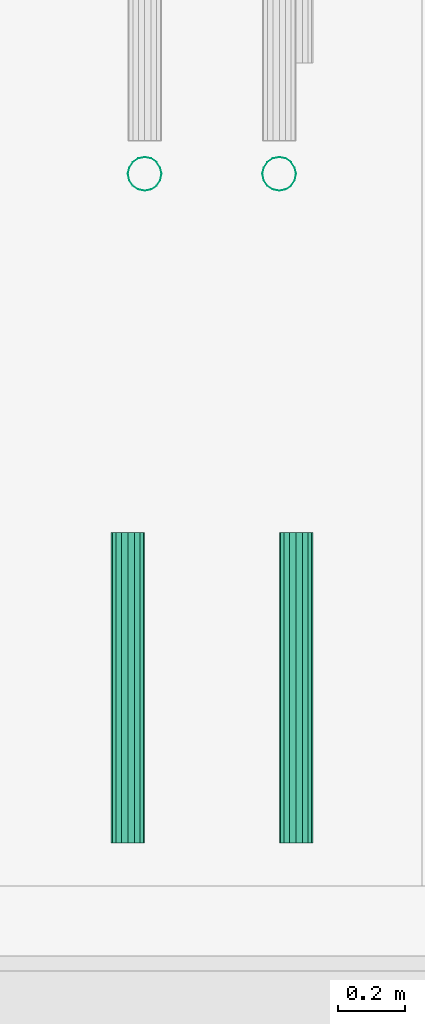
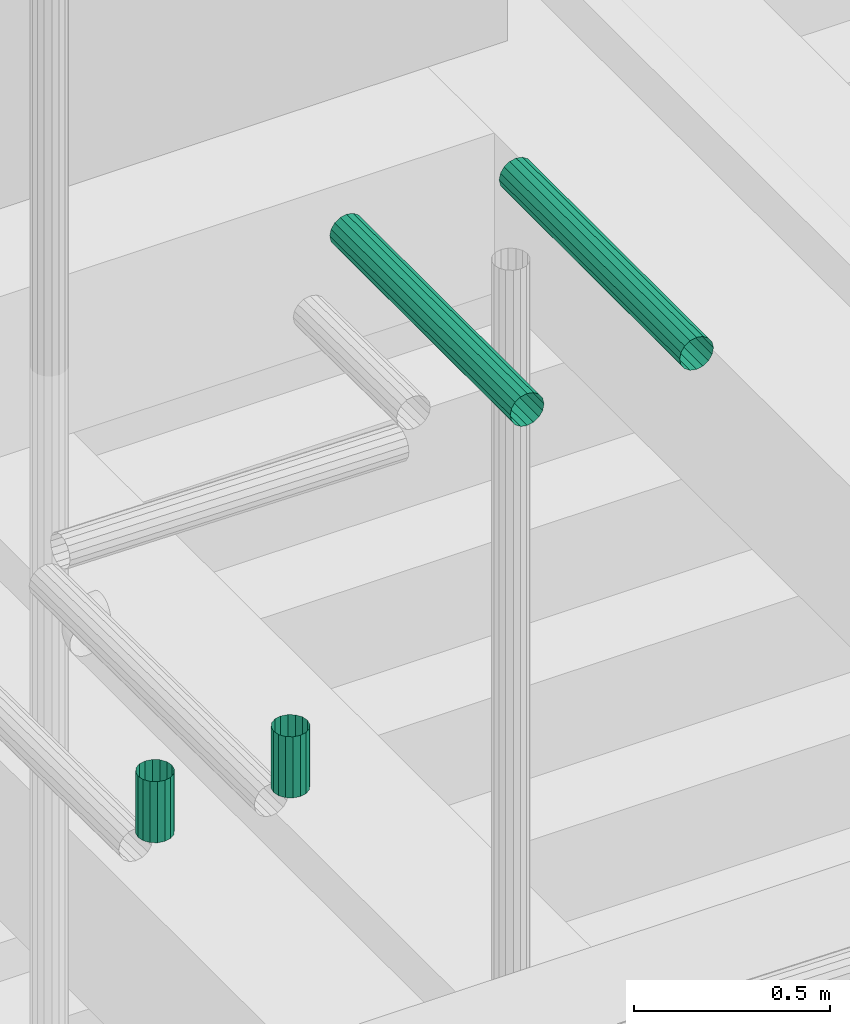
# One storey, part 71 of 106: 4 flow segments.
"""IFC2X3 building model written with IfcOpenShell, lengths in metres."""

from ifc_helpers import new_model, entity, si_unit, converted_unit, derived_unit, money_unit, direction, frame, origin_with_axes, place, context, subcontext, project, spatial, faceted_brep, material, type_object, element, save


model = new_model("IFC2X3")

# Units and contexts
model_context = context("Model", 3, precision=1e-05, world=origin_with_axes(), true_north=direction((0.0, 1.0)))
body_context = subcontext(model_context, "Body", "Model", "MODEL_VIEW", scale=1.0)
ifc_project = project(units=[si_unit("LENGTHUNIT", "METRE"), si_unit("AREAUNIT", "SQUARE_METRE"), si_unit("VOLUMEUNIT", "CUBIC_METRE"), si_unit("ABSORBEDDOSEUNIT", "GRAY"), si_unit("AMOUNTOFSUBSTANCEUNIT", "MOLE"), si_unit("DOSEEQUIVALENTUNIT", "SIEVERT"), si_unit("ELECTRICCAPACITANCEUNIT", "FARAD"), si_unit("ELECTRICCHARGEUNIT", "COULOMB"), si_unit("ELECTRICCONDUCTANCEUNIT", "SIEMENS"), si_unit("ELECTRICCURRENTUNIT", "AMPERE"), si_unit("ELECTRICRESISTANCEUNIT", "OHM"), si_unit("ELECTRICVOLTAGEUNIT", "VOLT"), si_unit("ENERGYUNIT", "JOULE"), si_unit("FORCEUNIT", "NEWTON"), si_unit("FREQUENCYUNIT", "HERTZ"), si_unit("ILLUMINANCEUNIT", "LUX"), si_unit("INDUCTANCEUNIT", "HENRY"), si_unit("LUMINOUSFLUXUNIT", "LUMEN"), si_unit("LUMINOUSINTENSITYUNIT", "CANDELA"), si_unit("MAGNETICFLUXDENSITYUNIT", "TESLA"), si_unit("MAGNETICFLUXUNIT", "WEBER"), si_unit("MASSUNIT", "GRAM"), converted_unit("PLANEANGLEUNIT", "degree", entity("IfcReal", 0.0174532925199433), si_unit("PLANEANGLEUNIT", "RADIAN"), dimensions=[0, 0, 0, 0, 0, 0, 0]), si_unit("POWERUNIT", "WATT"), si_unit("PRESSUREUNIT", "PASCAL"), si_unit("RADIOACTIVITYUNIT", "BECQUEREL"), si_unit("SOLIDANGLEUNIT", "STERADIAN"), si_unit("THERMODYNAMICTEMPERATUREUNIT", "KELVIN"), si_unit("TIMEUNIT", "SECOND"), derived_unit("ACCELERATIONUNIT", [(si_unit("LENGTHUNIT", "METRE"), 1), (si_unit("TIMEUNIT", "SECOND"), -2)]), derived_unit("ANGULARVELOCITYUNIT", [(converted_unit("PLANEANGLEUNIT", "degree", entity("IfcReal", 0.0174532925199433), si_unit("PLANEANGLEUNIT", "RADIAN"), dimensions=[0, 0, 0, 0, 0, 0, 0]), 1), (si_unit("TIMEUNIT", "SECOND"), -1)]), derived_unit("CURVATUREUNIT", [(converted_unit("PLANEANGLEUNIT", "degree", entity("IfcReal", 0.0174532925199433), si_unit("PLANEANGLEUNIT", "RADIAN"), dimensions=[0, 0, 0, 0, 0, 0, 0]), 1), (si_unit("LENGTHUNIT", "METRE"), -1)]), derived_unit("DYNAMICVISCOSITYUNIT", [(si_unit("PRESSUREUNIT", "PASCAL"), 1), (si_unit("TIMEUNIT", "SECOND"), 1)]), derived_unit("HEATFLUXDENSITYUNIT", [(si_unit("POWERUNIT", "WATT"), 1), (si_unit("LENGTHUNIT", "METRE"), -2)]), derived_unit("HEATINGVALUEUNIT", [(si_unit("ENERGYUNIT", "JOULE"), 1), (si_unit("MASSUNIT", "GRAM"), -1)]), derived_unit("INTEGERCOUNTRATEUNIT", [(si_unit("TIMEUNIT", "SECOND"), -1)]), derived_unit("IONCONCENTRATIONUNIT", [(si_unit("MASSUNIT", "GRAM"), 1), (si_unit("VOLUMEUNIT", "CUBIC_METRE"), -1)]), derived_unit("ISOTHERMALMOISTURECAPACITYUNIT", [(si_unit("VOLUMEUNIT", "CUBIC_METRE"), 1), (si_unit("MASSUNIT", "GRAM"), -1)]), derived_unit("KINEMATICVISCOSITYUNIT", [(si_unit("AREAUNIT", "SQUARE_METRE"), 1), (si_unit("TIMEUNIT", "SECOND"), -1)]), derived_unit("LINEARFORCEUNIT", [(si_unit("FORCEUNIT", "NEWTON"), 1), (si_unit("LENGTHUNIT", "METRE"), -1)]), derived_unit("LINEARMOMENTUNIT", [(si_unit("FORCEUNIT", "NEWTON"), 1), (si_unit("LENGTHUNIT", "METRE"), -1)]), derived_unit("LINEARSTIFFNESSUNIT", [(si_unit("FORCEUNIT", "NEWTON"), 1), (si_unit("LENGTHUNIT", "METRE"), -1)]), derived_unit("LINEARVELOCITYUNIT", [(si_unit("LENGTHUNIT", "METRE"), 1), (si_unit("TIMEUNIT", "SECOND"), -1)]), derived_unit("LUMINOUSINTENSITYDISTRIBUTIONUNIT", [(si_unit("LUMINOUSINTENSITYUNIT", "CANDELA"), 1), (si_unit("LUMINOUSFLUXUNIT", "LUMEN"), -1)]), derived_unit("MASSDENSITYUNIT", [(si_unit("MASSUNIT", "GRAM"), 1), (si_unit("VOLUMEUNIT", "CUBIC_METRE"), -1)]), derived_unit("MASSFLOWRATEUNIT", [(si_unit("MASSUNIT", "GRAM"), 1), (si_unit("TIMEUNIT", "SECOND"), -1)]), derived_unit("MASSPERLENGTHUNIT", [(si_unit("MASSUNIT", "GRAM"), 1), (si_unit("LENGTHUNIT", "METRE"), -1)]), derived_unit("MODULUSOFELASTICITYUNIT", [(si_unit("FORCEUNIT", "NEWTON"), 1), (si_unit("AREAUNIT", "SQUARE_METRE"), -1)]), derived_unit("MODULUSOFLINEARSUBGRADEREACTIONUNIT", [(si_unit("FORCEUNIT", "NEWTON"), 1), (si_unit("LENGTHUNIT", "METRE"), -2)]), derived_unit("MODULUSOFROTATIONALSUBGRADEREACTIONUNIT", [(si_unit("FORCEUNIT", "NEWTON"), 1), (si_unit("LENGTHUNIT", "METRE"), 1)]), derived_unit("MODULUSOFSUBGRADEREACTIONUNIT", [(si_unit("FORCEUNIT", "NEWTON"), 1), (si_unit("VOLUMEUNIT", "CUBIC_METRE"), -1)]), derived_unit("MOISTUREDIFFUSIVITYUNIT", [(si_unit("VOLUMEUNIT", "CUBIC_METRE"), 1), (si_unit("TIMEUNIT", "SECOND"), -1)]), derived_unit("MOLECULARWEIGHTUNIT", [(si_unit("MASSUNIT", "GRAM"), 1), (si_unit("AMOUNTOFSUBSTANCEUNIT", "MOLE"), -1)]), derived_unit("PLANARFORCEUNIT", [(si_unit("FORCEUNIT", "NEWTON"), 1), (si_unit("LENGTHUNIT", "METRE"), -2)]), derived_unit("ROTATIONALFREQUENCYUNIT", [(si_unit("TIMEUNIT", "SECOND"), -1)]), derived_unit("ROTATIONALMASSUNIT", [(si_unit("MASSUNIT", "GRAM"), 1), (si_unit("LENGTHUNIT", "METRE"), 2)]), derived_unit("ROTATIONALSTIFFNESSUNIT", [(si_unit("FORCEUNIT", "NEWTON"), 1), (si_unit("LENGTHUNIT", "METRE"), 1), (converted_unit("PLANEANGLEUNIT", "degree", entity("IfcReal", 0.0174532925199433), si_unit("PLANEANGLEUNIT", "RADIAN"), dimensions=[0, 0, 0, 0, 0, 0, 0]), -1)]), derived_unit("SECTIONAREAINTEGRALUNIT", [(si_unit("LENGTHUNIT", "METRE"), 5)]), derived_unit("SECTIONMODULUSUNIT", [(si_unit("LENGTHUNIT", "METRE"), 3)]), derived_unit("SHEARMODULUSUNIT", [(si_unit("FORCEUNIT", "NEWTON"), 1), (si_unit("AREAUNIT", "SQUARE_METRE"), -1)]), derived_unit("SOUNDPOWERUNIT", [(si_unit("ENERGYUNIT", "JOULE"), 1), (si_unit("TIMEUNIT", "SECOND"), -1)]), derived_unit("SPECIFICHEATCAPACITYUNIT", [(si_unit("FORCEUNIT", "NEWTON"), 1), (si_unit("MASSUNIT", "GRAM"), -1), (si_unit("THERMODYNAMICTEMPERATUREUNIT", "KELVIN"), -1)]), derived_unit("TEMPERATUREGRADIENTUNIT", [(si_unit("THERMODYNAMICTEMPERATUREUNIT", "KELVIN"), 1), (si_unit("LENGTHUNIT", "METRE"), -1)]), derived_unit("THERMALADMITTANCEUNIT", [(si_unit("POWERUNIT", "WATT"), 1), (si_unit("AREAUNIT", "SQUARE_METRE"), -1), (si_unit("THERMODYNAMICTEMPERATUREUNIT", "KELVIN"), -1)]), derived_unit("THERMALCONDUCTANCEUNIT", [(si_unit("POWERUNIT", "WATT"), 1), (si_unit("LENGTHUNIT", "METRE"), -1), (si_unit("THERMODYNAMICTEMPERATUREUNIT", "KELVIN"), -1)]), derived_unit("THERMALEXPANSIONCOEFFICIENTUNIT", [(si_unit("THERMODYNAMICTEMPERATUREUNIT", "KELVIN"), -1)]), derived_unit("THERMALRESISTANCEUNIT", [(si_unit("AREAUNIT", "SQUARE_METRE"), 1), (si_unit("POWERUNIT", "WATT"), -1)]), derived_unit("THERMALTRANSMITTANCEUNIT", [(si_unit("POWERUNIT", "WATT"), 1), (si_unit("AREAUNIT", "SQUARE_METRE"), -1), (si_unit("THERMODYNAMICTEMPERATUREUNIT", "KELVIN"), -1)]), derived_unit("TORQUEUNIT", [(si_unit("FORCEUNIT", "NEWTON"), 1), (si_unit("LENGTHUNIT", "METRE"), 1)]), derived_unit("VAPORPERMEABILITYUNIT", [(si_unit("MASSUNIT", "GRAM"), 1), (si_unit("TIMEUNIT", "SECOND"), -1)]), derived_unit("VOLUMETRICFLOWRATEUNIT", [(si_unit("VOLUMEUNIT", "CUBIC_METRE"), 1), (si_unit("TIMEUNIT", "SECOND"), -1)]), derived_unit("WARPINGCONSTANTUNIT", [(si_unit("LENGTHUNIT", "METRE"), 6)]), derived_unit("WARPINGMOMENTUNIT", [(si_unit("FORCEUNIT", "NEWTON"), 1), (si_unit("LENGTHUNIT", "METRE"), 2)]), money_unit("GBP")], contexts=[model_context])

# Site, building, storey
site_placement = place(None, origin_with_axes())
site = spatial("IfcSite", under=ifc_project, at=site_placement, Name="Site", CompositionType="ELEMENT")
building_placement = place(site_placement, origin_with_axes())
building = spatial("IfcBuilding", under=site, at=building_placement, Name="Building01", CompositionType="ELEMENT")
storey_placement = place(building_placement, origin_with_axes())
storey = spatial("IfcBuildingStorey", under=building, at=storey_placement, Name="GF", CompositionType="ELEMENT", Elevation=0.0)

# Flow segments
ifc_material_1 = material(Name="M_BSUK_Ventilation")
duct_segment_type = type_object("IfcDuctSegmentType", Name="M-RoundDuct", PredefinedType="RIGIDSEGMENT")
for number, where, z_axis, x_axis, name in (
    (1, (13.75, 0.800593, 17.28), (0.0, 0.0, 1.0), (0.0, 1.0, 0.0), "M-RoundDuct"),
    (2, (13.25, 0.800593, 17.28), (0.0, 0.0, 1.0), (0.0, 1.0, 0.0), "M-RoundDuct"),
):
    element("IfcFlowSegment", number, at=place(storey_placement, frame(where, z_axis=z_axis, x_axis=x_axis)), inside=storey, type_object=duct_segment_type, material=ifc_material_1, Name=name, ObjectType="M-RoundDuct", context=body_context, shape_type="Brep", body=[
        faceted_brep([(0.922649, 0.0, -0.05), (0.0, 0.0, -0.05), (0.0, 0.019134, -0.046194), (0.922649, 0.019134, -0.046194), (0.0, 0.035355, -0.035355), (0.922649, 0.035355, -0.035355), (0.0, 0.046194, -0.019134), (0.922649, 0.046194, -0.019134), (0.0, 0.05, 0.0), (0.922649, 0.05, 0.0), (0.0, 0.046194, 0.019134), (0.922649, 0.046194, 0.019134), (0.0, 0.035355, 0.035355), (0.922649, 0.035355, 0.035355), (0.0, 0.019134, 0.046194), (0.922649, 0.019134, 0.046194), (0.0, 0.0, 0.05), (0.922649, 0.0, 0.05), (0.0, -0.019134, 0.046194), (0.922649, -0.019134, 0.046194), (0.0, -0.035355, 0.035355), (0.922649, -0.035355, 0.035355), (0.0, -0.046194, 0.019134), (0.922649, -0.046194, 0.019134), (0.0, -0.05, 0.0), (0.922649, -0.05, 0.0), (0.0, -0.046194, -0.019134), (0.922649, -0.046194, -0.019134), (0.0, -0.035355, -0.035355), (0.922649, -0.035355, -0.035355), (0.0, -0.019134, -0.046194), (0.922649, -0.019134, -0.046194)], [[[0, 1, 2, 3]], [[3, 2, 4, 5]], [[5, 4, 6, 7]], [[7, 6, 8, 9]], [[9, 8, 10, 11]], [[11, 10, 12, 13]], [[13, 12, 14, 15]], [[15, 14, 16, 17]], [[17, 16, 18, 19]], [[19, 18, 20, 21]], [[21, 20, 22, 23]], [[23, 22, 24, 25]], [[25, 24, 26, 27]], [[27, 26, 28, 29]], [[29, 28, 30, 31]], [[31, 30, 1, 0]]]),
    ])
ifc_material_2 = material(Name="M_BSUK_ColdWater")
pipe_segment_type = type_object("IfcPipeSegmentType", Name="M-BmpStraightpipe-DefaultPipe", PredefinedType="RIGIDSEGMENT")
for number, where, z_axis, x_axis in (
    (3, (13.3, 2.789428, 14.93), (1.0, 0.0, 0.0), (0.0, 0.0, -1.0)),
    (4, (13.7, 2.789428, 14.93), (1.0, 0.0, 0.0), (0.0, 0.0, -1.0)),
):
    element("IfcFlowSegment", number, at=place(storey_placement, frame(where, z_axis=z_axis, x_axis=x_axis)), inside=storey, type_object=pipe_segment_type, material=ifc_material_2, Name="M-BmpStraightpipe-DefaultPipe", ObjectType="M-BmpStraightpipe-DefaultPipe", context=body_context, shape_type="Brep", body=[
        faceted_brep([(0.190779, 0.0, -0.05), (0.0, 0.0, -0.05), (0.0, 0.019134, -0.046194), (0.190779, 0.019134, -0.046194), (0.0, 0.035355, -0.035355), (0.190779, 0.035355, -0.035355), (0.0, 0.046194, -0.019134), (0.190779, 0.046194, -0.019134), (0.0, 0.05, 0.0), (0.190779, 0.05, 0.0), (0.0, 0.046194, 0.019134), (0.190779, 0.046194, 0.019134), (0.0, 0.035355, 0.035355), (0.190779, 0.035355, 0.035355), (0.0, 0.019134, 0.046194), (0.190779, 0.019134, 0.046194), (0.0, 0.0, 0.05), (0.190779, 0.0, 0.05), (0.0, -0.019134, 0.046194), (0.190779, -0.019134, 0.046194), (0.0, -0.035355, 0.035355), (0.190779, -0.035355, 0.035355), (0.0, -0.046194, 0.019134), (0.190779, -0.046194, 0.019134), (0.0, -0.05, 0.0), (0.190779, -0.05, 0.0), (0.0, -0.046194, -0.019134), (0.190779, -0.046194, -0.019134), (0.0, -0.035355, -0.035355), (0.190779, -0.035355, -0.035355), (0.0, -0.019134, -0.046194), (0.190779, -0.019134, -0.046194)], [[[0, 1, 2, 3]], [[3, 2, 4, 5]], [[5, 4, 6, 7]], [[7, 6, 8, 9]], [[9, 8, 10, 11]], [[11, 10, 12, 13]], [[13, 12, 14, 15]], [[15, 14, 16, 17]], [[17, 16, 18, 19]], [[19, 18, 20, 21]], [[21, 20, 22, 23]], [[23, 22, 24, 25]], [[25, 24, 26, 27]], [[27, 26, 28, 29]], [[29, 28, 30, 31]], [[31, 30, 1, 0]]]),
    ])

save(model, "model.ifc")
